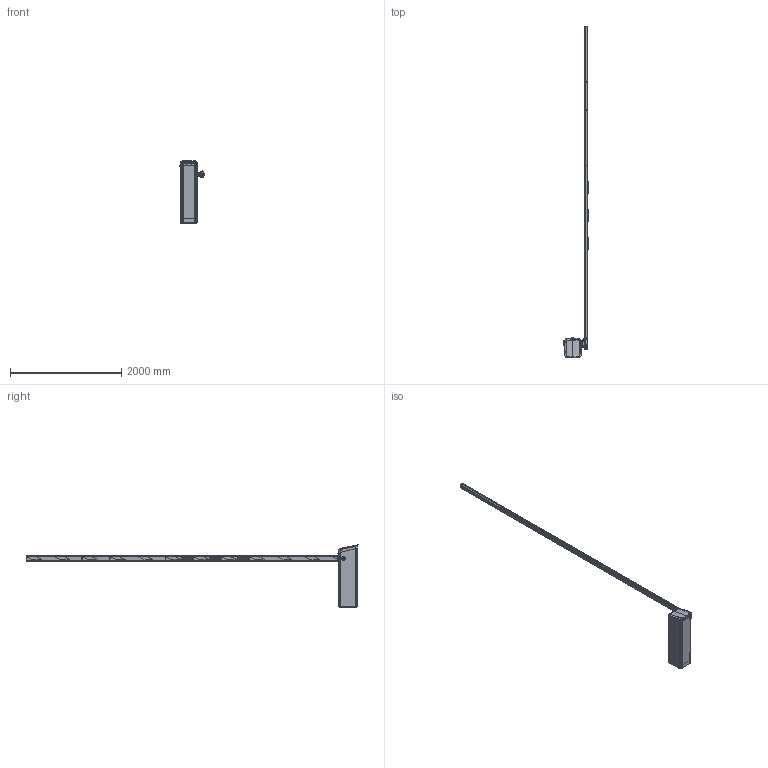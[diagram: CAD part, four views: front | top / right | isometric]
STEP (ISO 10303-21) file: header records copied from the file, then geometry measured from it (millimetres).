
FILE_DESCRIPTION(/* description */ ('Unknown'),/* implementation_level */ '2;1');
FILE_NAME(/* name */ '55860010_01',/* time_stamp */ '2023-03-06T09:34:13+01:00',/* author */ ('Unknown'),/* organization */ ('Unknown'),/* preprocessor_version */ 'ST-DEVELOPER v18.102',/* originating_system */ 'Solid Edge',/* authorisation */ 'Unknown');
FILE_SCHEMA (('AUTOMOTIVE_DESIGN {1 0 10303 214 3 1 1}'));
Products named in the file (65): 55860010; 55860002_Baum_5619; 55155397_5619; 20115008; 34915000; 20185227; 20180409; 20185229; 34595007; 10315939; 20045100; 20045101; 34845067; 20075022; 20075012; 34775000; 20405926; ACCESS H-L-HUELLE; 10435374; 20435667; 34685017; 34685017a; 34685017c; 34685017b; 34685017d; 20585064; 20435696; 20195087; 10335028; 20695070; 20375010; 20775051; 20165183; 20186029; 10085135; 20695057; 34745013; 20345347; 20345348; 10085135-Dichtung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
Assembly tree (181 placements, depth 5):
  55860010
    55860002_Baum_5619
      55155397_5619
        55155397_5619
        20115008  x2
        34915000  x2
        20185227  x12
        20180409  x2
        20185229  x12
        34595007
    10315939
      20045100
      20045101
      34845067  x4
      20075022
      20075012
      34775000  x4
      20405926
    ACCESS H-L-HUELLE
      10435374
        20435667
        34685017
          34685017a
          34685017c
          34685017b
          34685017d
        20585064
      20435696
      20195087  x2
      10335028  x2
        20695070
        20375010
      20775051  x2
      20165183
      20186029
      10085135
        20695057
        34745013  x5
        20345347
        20345348
        10085135-Dichtung
      20415077
        20415077a
        20415077b
      30545011
      21085006
      20775050  x2
      21085007
      20695069  x4
      10405014
        20405757
        31475004_10405014  x2
        32240037-10405014  x2
        31475004_10405014c
        31475004_10405014b
      20035145
    55860002_Baum_3119
      55155397_3119
        55155397_3119
        20115008  x2
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Bounding box: 432.89 x 5967.42 x 1116.34 mm (x, y, z)
Volume: 17201815.6 mm3; surface area: 16872485.2 mm2
Topology: 166 solids, 166 shells, 9482 faces, 24418 edges, 15613 vertices
Faces by surface type: plane 5391, cylinder 2273, bspline 1169, torus 305, cone 284, sphere 60
Full cylindrical faces by diameter (mm): 0.5 x1, 1.5 x3, 1.8 x2, 3 x16, 3.2 x1, 3.5 x17, 3.6 x16, 3.65 x4, 3.9 x6, 4.134 x2, 4.773 x5, 4.9 x3, 4.917 x4, 5.5 x2, 6 x10, 6.5 x9, 6.647 x4, 7 x8, 7.1 x2, 8 x4, 8.2 x3, 9 x8, 9.853 x4, 10 x6, 10.1 x4, 10.2 x1, 10.4 x1, 10.5 x4, 11 x2, 12 x8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
Entity records: 198725 total; most frequent: CARTESIAN_POINT 80781, ORIENTED_EDGE 24134, DIRECTION 22384, EDGE_CURVE 12067, AXIS2_PLACEMENT_3D 7724, VERTEX_POINT 7703, LINE 6936, VECTOR 6936
